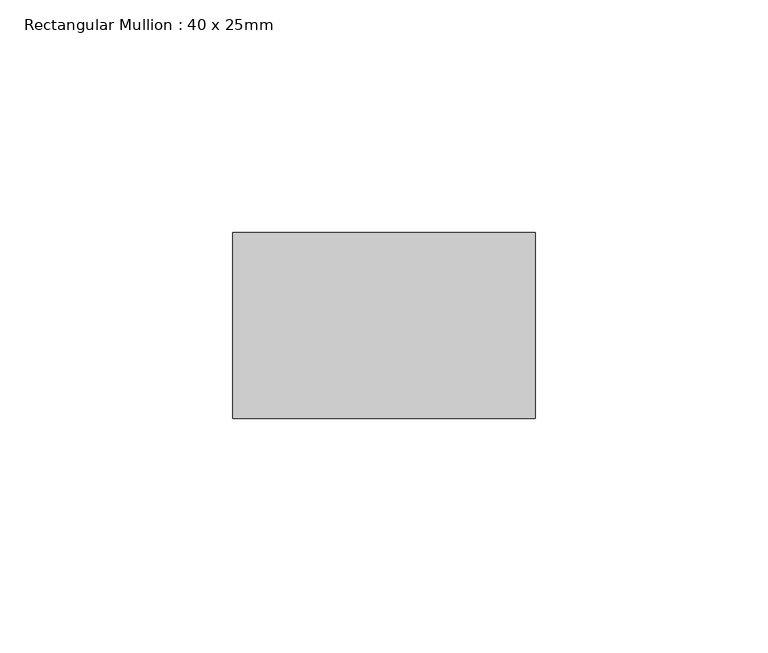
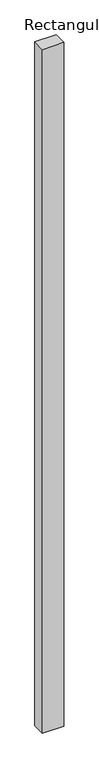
"""IFC4 building model written with IfcOpenShell, lengths in millimetres: member geometry, Rectangular Mullion : 40 x 25mm."""

from ifc_helpers import new_model, si_unit, frame, origin, place, context, project, spatial, polyline, outline, extrude, source, transform, mapped, element, save


def rectangular_mullion_40_x_25mm_b4b3e915(model_context):
    return source(origin(), model_context, "Body", "SweptSolid", [
        extrude(outline(polyline([(0.0, -20.0), (0.0, -60.0), (-65.0, -60.0), (-65.0, -20.0), (0.0, -20.0)])), frame((0.0, 0.0, -2199.685017), z_axis=(0.0, 0.0, 1.0), x_axis=(1.0, 0.0, 0.0)), (0.0, 0.0, 1.0), 2199.685017),
    ])


if __name__ == "__main__":
    model = new_model("IFC4")
    model_context = context("Model", 3, world=origin())
    ifc_project = project(units=[si_unit("LENGTHUNIT", "METRE", prefix="MILLI")], contexts=[model_context])
    site = spatial("IfcSite", under=ifc_project)
    building = spatial("IfcBuilding", under=site)
    placement = place(None, origin())
    rectangular_mullion_40_x_25mm_shape = rectangular_mullion_40_x_25mm_b4b3e915(model_context)
    element("IfcMember", 1, ObjectType="Rectangular Mullion : 40 x 25mm", at=placement, inside=building, context=model_context, shape_type="MappedRepresentation", body=[
        mapped(rectangular_mullion_40_x_25mm_shape, transform((0.0, 0.0, 0.0), x_axis=(1.0, 0.0, 0.0), y_axis=(0.0, 1.0, 0.0), z_axis=(0.0, 0.0, 1.0))),
    ])
    save(model, "model.ifc")
